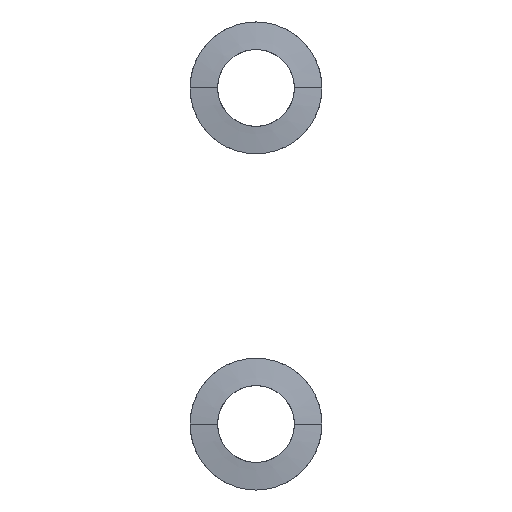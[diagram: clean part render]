
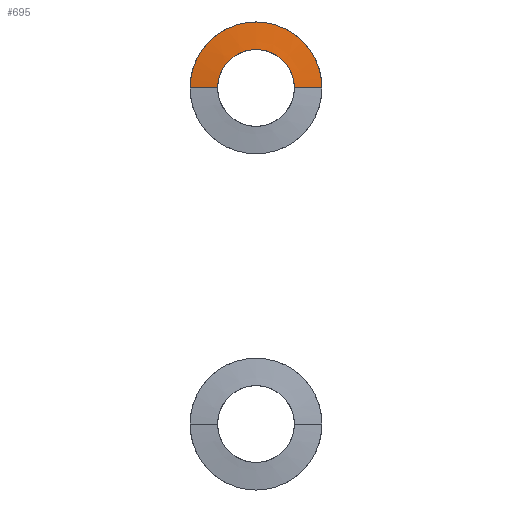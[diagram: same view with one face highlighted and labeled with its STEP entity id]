
A CAD part, left-side view. The second image highlights one B-rep face of the part: STEP entity #695.
In plain terms, the highlighted free-form (B-spline) face has degree [1, 2] with [2, 9] control points.
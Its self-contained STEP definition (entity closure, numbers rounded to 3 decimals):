
#695=ADVANCED_FACE('',(#751),#2655,.T.);
#751=FACE_OUTER_BOUND('',#807,.T.);
#807=EDGE_LOOP('',(#953,#954,#955,#956));
#953=ORIENTED_EDGE('',*,*,#1961,.T.);
#954=ORIENTED_EDGE('',*,*,#1962,.T.);
#955=ORIENTED_EDGE('',*,*,#1963,.T.);
#956=ORIENTED_EDGE('',*,*,#1964,.T.);
#1117=(
BOUNDED_CURVE()
B_SPLINE_CURVE(2,(#4107,#4108,#4109,#4110,#4111),.UNSPECIFIED.,.F.,.F.)
B_SPLINE_CURVE_WITH_KNOTS((3,2,3),(1.,2.571,4.142),
 .UNSPECIFIED.)
CURVE()
GEOMETRIC_REPRESENTATION_ITEM()
RATIONAL_B_SPLINE_CURVE((1.,0.707,1.,0.707,1.))
REPRESENTATION_ITEM('')
);
#1118=(
BOUNDED_CURVE()
B_SPLINE_CURVE(2,(#4118,#4119,#4120,#4121,#4122),.UNSPECIFIED.,.F.,.F.)
B_SPLINE_CURVE_WITH_KNOTS((3,2,3),(5.142,6.712,8.283),
 .UNSPECIFIED.)
CURVE()
GEOMETRIC_REPRESENTATION_ITEM()
RATIONAL_B_SPLINE_CURVE((1.,0.707,1.,0.707,1.))
REPRESENTATION_ITEM('')
);
#1289=PCURVE('',#2655,#1513);
#1290=PCURVE('',#2655,#1514);
#1291=PCURVE('',#2655,#1515);
#1292=PCURVE('',#2655,#1516);
#1513=DEFINITIONAL_REPRESENTATION('',(#2246),#5225);
#1514=DEFINITIONAL_REPRESENTATION('',(#2247),#5225);
#1515=DEFINITIONAL_REPRESENTATION('',(#2249),#5225);
#1516=DEFINITIONAL_REPRESENTATION('',(#2250),#5225);
#1737=SURFACE_CURVE('',#2245,(#1289),.PCURVE_S1.);
#1738=SURFACE_CURVE('',#1117,(#1290),.PCURVE_S1.);
#1739=SURFACE_CURVE('',#2248,(#1291),.PCURVE_S1.);
#1740=SURFACE_CURVE('',#1118,(#1292),.PCURVE_S1.);
#1961=EDGE_CURVE('',#2521,#2522,#1737,.T.);
#1962=EDGE_CURVE('',#2522,#2524,#1738,.T.);
#1963=EDGE_CURVE('',#2524,#2523,#1739,.T.);
#1964=EDGE_CURVE('',#2523,#2521,#1740,.T.);
#2245=B_SPLINE_CURVE_WITH_KNOTS('',1,(#4103,#4104),.UNSPECIFIED.,.F.,.F.,
(2,2),(0.,1.),.UNSPECIFIED.);
#2246=B_SPLINE_CURVE_WITH_KNOTS('',1,(#4105,#4106),.UNSPECIFIED.,.F.,.F.,
(2,2),(0.,1.),.UNSPECIFIED.);
#2247=B_SPLINE_CURVE_WITH_KNOTS('',1,(#4112,#4113),.UNSPECIFIED.,.F.,.F.,
(2,2),(1.,4.142),.UNSPECIFIED.);
#2248=B_SPLINE_CURVE_WITH_KNOTS('',1,(#4114,#4115),.UNSPECIFIED.,.F.,.F.,
(2,2),(4.142,5.142),.UNSPECIFIED.);
#2249=B_SPLINE_CURVE_WITH_KNOTS('',1,(#4116,#4117),.UNSPECIFIED.,.F.,.F.,
(2,2),(4.142,5.142),.UNSPECIFIED.);
#2250=B_SPLINE_CURVE_WITH_KNOTS('',1,(#4123,#4124),.UNSPECIFIED.,.F.,.F.,
(2,2),(5.142,8.283),.UNSPECIFIED.);
#2521=VERTEX_POINT('',#4099);
#2522=VERTEX_POINT('',#4100);
#2523=VERTEX_POINT('',#4101);
#2524=VERTEX_POINT('',#4102);
#2655=(
BOUNDED_SURFACE()
B_SPLINE_SURFACE(1,2,((#4081,#4082,#4083,#4084,#4085,#4086,#4087,#4088,#4089),
(#4090,#4091,#4092,#4093,#4094,#4095,#4096,#4097,#4098)),.UNSPECIFIED.,.F.,
 .F.,.F.)
B_SPLINE_SURFACE_WITH_KNOTS((2,2),(3,2,2,2,3),(0.,1.),(0.,1.571,
3.142,4.712,6.283),.UNSPECIFIED.)
GEOMETRIC_REPRESENTATION_ITEM()
RATIONAL_B_SPLINE_SURFACE(((1.,0.707,1.,0.707,1.,
0.707,1.,0.707,1.),(1.,0.707,1.,0.707,
1.,0.707,1.,0.707,1.)))
REPRESENTATION_ITEM('')
SURFACE()
);
#4081=CARTESIAN_POINT('',(-494.909,20.,17.017));
#4082=CARTESIAN_POINT('',(-494.909,20.,17.017));
#4083=CARTESIAN_POINT('',(-494.909,20.,17.017));
#4084=CARTESIAN_POINT('',(-494.909,20.,17.017));
#4085=CARTESIAN_POINT('',(-494.909,20.,17.017));
#4086=CARTESIAN_POINT('',(-494.909,20.,17.017));
#4087=CARTESIAN_POINT('',(-494.909,20.,17.017));
#4088=CARTESIAN_POINT('',(-494.909,20.,17.017));
#4089=CARTESIAN_POINT('',(-494.909,20.,17.017));
#4090=CARTESIAN_POINT('',(-494.401,16.111,17.017));
#4091=CARTESIAN_POINT('',(-494.401,16.111,13.128));
#4092=CARTESIAN_POINT('',(-494.401,20.,13.128));
#4093=CARTESIAN_POINT('',(-494.401,23.889,13.128));
#4094=CARTESIAN_POINT('',(-494.401,23.889,17.017));
#4095=CARTESIAN_POINT('',(-494.401,23.889,20.906));
#4096=CARTESIAN_POINT('',(-494.401,20.,20.906));
#4097=CARTESIAN_POINT('',(-494.401,16.111,20.906));
#4098=CARTESIAN_POINT('',(-494.401,16.111,17.017));
#4099=CARTESIAN_POINT('',(-494.55,17.25,17.017));
#4100=CARTESIAN_POINT('',(-494.7,18.4,17.017));
#4101=CARTESIAN_POINT('',(-494.55,22.75,17.017));
#4102=CARTESIAN_POINT('',(-494.7,21.6,17.017));
#4103=CARTESIAN_POINT('',(-494.55,17.25,17.017));
#4104=CARTESIAN_POINT('',(-494.7,18.4,17.017));
#4105=CARTESIAN_POINT('',(0.707,6.283));
#4106=CARTESIAN_POINT('',(0.411,6.283));
#4107=CARTESIAN_POINT('',(-494.7,18.4,17.017));
#4108=CARTESIAN_POINT('',(-494.7,18.4,18.617));
#4109=CARTESIAN_POINT('',(-494.7,20.,18.617));
#4110=CARTESIAN_POINT('',(-494.7,21.6,18.617));
#4111=CARTESIAN_POINT('',(-494.7,21.6,17.017));
#4112=CARTESIAN_POINT('',(0.411,6.283));
#4113=CARTESIAN_POINT('',(0.411,3.142));
#4114=CARTESIAN_POINT('',(-494.7,21.6,17.017));
#4115=CARTESIAN_POINT('',(-494.55,22.75,17.017));
#4116=CARTESIAN_POINT('',(0.411,3.142));
#4117=CARTESIAN_POINT('',(0.707,3.142));
#4118=CARTESIAN_POINT('',(-494.55,22.75,17.017));
#4119=CARTESIAN_POINT('',(-494.55,22.75,19.767));
#4120=CARTESIAN_POINT('',(-494.55,20.,19.767));
#4121=CARTESIAN_POINT('',(-494.55,17.25,19.767));
#4122=CARTESIAN_POINT('',(-494.55,17.25,17.017));
#4123=CARTESIAN_POINT('',(0.707,3.142));
#4124=CARTESIAN_POINT('',(0.707,6.283));
#5225=(
GEOMETRIC_REPRESENTATION_CONTEXT(2)
PARAMETRIC_REPRESENTATION_CONTEXT()
REPRESENTATION_CONTEXT('pspace','')
);
